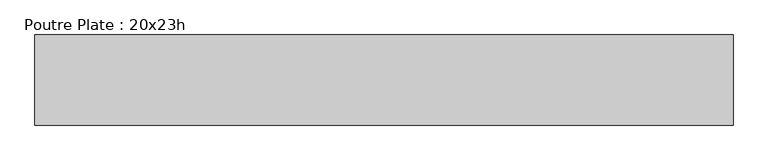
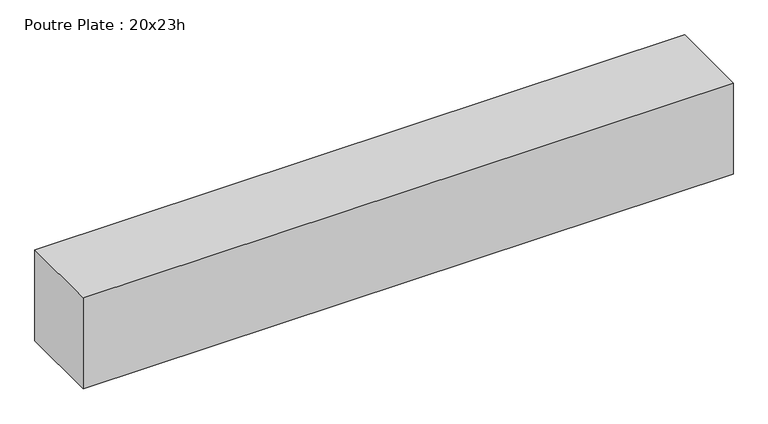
"""IFC4 building model written with IfcOpenShell, lengths in millimetres: beam geometry, Poutre Plate : 20x23h."""

from ifc_helpers import new_model, si_unit, frame, origin, place, context, project, spatial, polyline, outline, extrude, source, transform, mapped, element, save


def poutre_plate_20x23h_fd006301(model_context):
    return source(origin(), model_context, "Body", "SweptSolid", [
        extrude(outline(polyline([(774.7, 100.0), (774.7, -100.0), (-774.7, -100.0), (-774.7, 100.0), (774.7, 100.0)])), frame((0.0, 0.0, -115.0), z_axis=(0.0, 0.0, 1.0), x_axis=(1.0, 0.0, 0.0)), (0.0, 0.0, 1.0), 230.0),
    ])


if __name__ == "__main__":
    model = new_model("IFC4")
    model_context = context("Model", 3, world=origin())
    ifc_project = project(units=[si_unit("LENGTHUNIT", "METRE", prefix="MILLI")], contexts=[model_context])
    site = spatial("IfcSite", under=ifc_project)
    building = spatial("IfcBuilding", under=site)
    placement = place(None, origin())
    poutre_plate_20x23h_shape = poutre_plate_20x23h_fd006301(model_context)
    element("IfcBeam", 1, ObjectType="Poutre Plate : 20x23h", at=placement, inside=building, context=model_context, shape_type="MappedRepresentation", body=[
        mapped(poutre_plate_20x23h_shape, transform((0.0, 0.0, 0.0), x_axis=(1.0, 0.0, 0.0), y_axis=(0.0, 1.0, 0.0), z_axis=(0.0, 0.0, 1.0))),
    ])
    save(model, "model.ifc")
